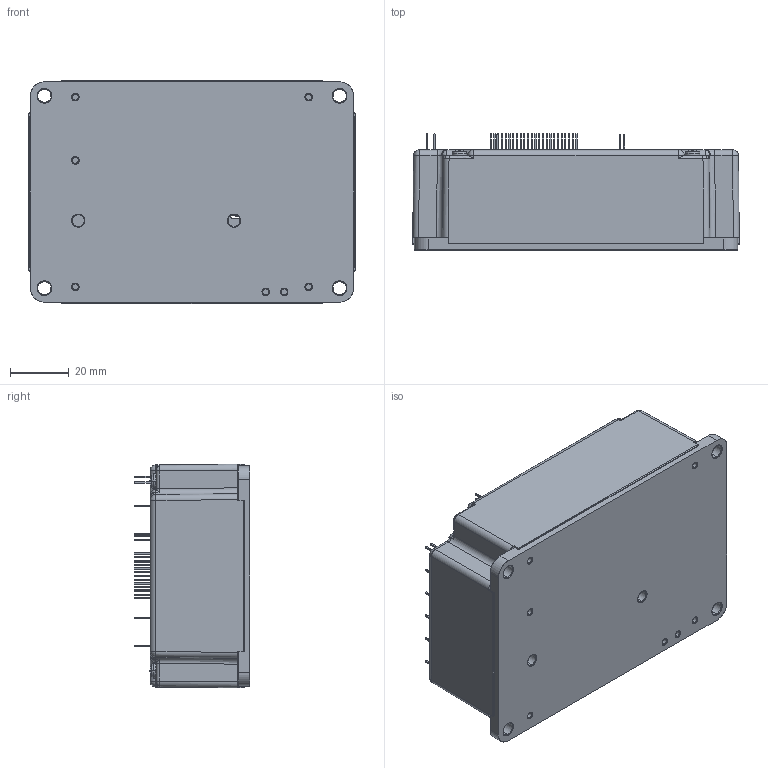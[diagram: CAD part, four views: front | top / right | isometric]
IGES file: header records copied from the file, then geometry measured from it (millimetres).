
Start section: SolidWorks IGES file using analytic representation for surfaces
Global section: file name: P:\Marketing\Manuals\Gold Line\Gold Trombone\Graphics\solid\new\gold-solo-trombone.IGS; native system: SolidWorks 2012; preprocessor: SolidWorks 2012; author: shlomo; date: 120819.074739; units: millimetre
Bounding box: 111.19 x 39.47 x 76.19 mm (x, y, z)
Surface area: 59581.7 mm2 (no closed solid volume)
Topology: 0 solids, 0 shells, 3829 faces, 24404 edges, 24404 vertices
Faces by surface type: bspline 3521, revolution 308
